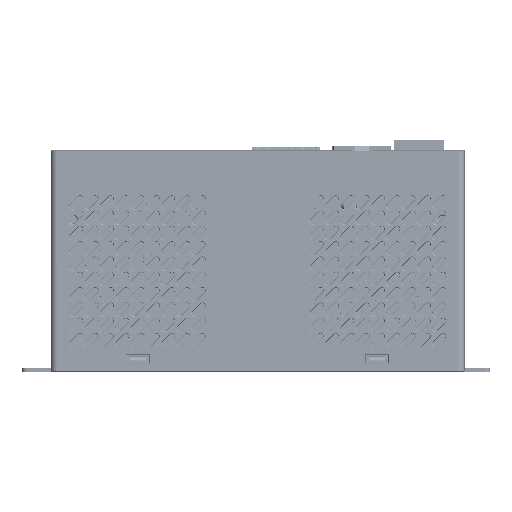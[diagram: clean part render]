
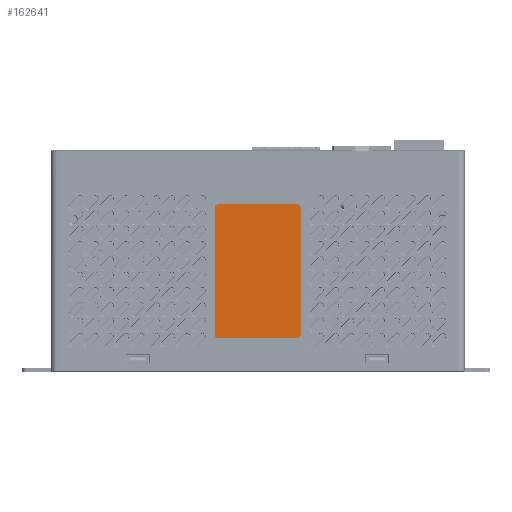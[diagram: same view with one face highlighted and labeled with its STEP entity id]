
A CAD part, left-side view. The second image highlights one B-rep face of the part: STEP entity #162641.
In plain terms, the highlighted planar face has unit normal (-1, 0, 0).
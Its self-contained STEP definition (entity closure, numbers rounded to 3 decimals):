
#2305 = CARTESIAN_POINT ( 'NONE',  ( -12.2, 56.5, 51.752 ) ) ;
#4958 = AXIS2_PLACEMENT_3D ( 'NONE', #66807, #45333, #190722 ) ;
#5462 = EDGE_CURVE ( 'NONE', #255972, #159931, #216417, .T. ) ;
#6751 = DIRECTION ( 'NONE',  ( 0., -1., 0. ) ) ;
#17173 = CARTESIAN_POINT ( 'NONE',  ( -12.2, 83.5, 11.752 ) ) ;
#19005 = VECTOR ( 'NONE', #6751, 1000. ) ;
#22038 = VERTEX_POINT ( 'NONE', #86061 ) ;
#22743 = ORIENTED_EDGE ( 'NONE', *, *, #5462, .T. ) ;
#23179 = EDGE_CURVE ( 'NONE', #188369, #22038, #244056, .T. ) ;
#25522 = ORIENTED_EDGE ( 'NONE', *, *, #204163, .T. ) ;
#27908 = CARTESIAN_POINT ( 'NONE',  ( -12.2, 82.5, 10.752 ) ) ;
#28674 = VECTOR ( 'NONE', #196399, 1000. ) ;
#30577 = CARTESIAN_POINT ( 'NONE',  ( -12.2, 56.5, 11.752 ) ) ;
#39298 = CARTESIAN_POINT ( 'NONE',  ( -12.2, 82.5, 52.752 ) ) ;
#44249 = DIRECTION ( 'NONE',  ( -1., 0., 0. ) ) ;
#45333 = DIRECTION ( 'NONE',  ( -1., 0., 0. ) ) ;
#50073 = DIRECTION ( 'NONE',  ( -1., 0., 0. ) ) ;
#50266 = ORIENTED_EDGE ( 'NONE', *, *, #191709, .T. ) ;
#52313 = LINE ( 'NONE', #134469, #28674 ) ;
#66807 = CARTESIAN_POINT ( 'NONE',  ( -12.2, 57.5, 51.752 ) ) ;
#75085 = VERTEX_POINT ( 'NONE', #110320 ) ;
#86061 = CARTESIAN_POINT ( 'NONE',  ( -12.2, 82.5, 52.752 ) ) ;
#102134 = ORIENTED_EDGE ( 'NONE', *, *, #167408, .T. ) ;
#105624 = ORIENTED_EDGE ( 'NONE', *, *, #201963, .T. ) ;
#110019 = ORIENTED_EDGE ( 'NONE', *, *, #23179, .T. ) ;
#110320 = CARTESIAN_POINT ( 'NONE',  ( -12.2, 57.5, 10.752 ) ) ;
#112733 = DIRECTION ( 'NONE',  ( 0., 0., 1. ) ) ;
#115902 = VECTOR ( 'NONE', #112733, 1000. ) ;
#119010 = AXIS2_PLACEMENT_3D ( 'NONE', #134243, #197503, #177310 ) ;
#119899 = EDGE_CURVE ( 'NONE', #227723, #75085, #214120, .T. ) ;
#125822 = CIRCLE ( 'NONE', #250603, 1. ) ;
#132231 = DIRECTION ( 'NONE',  ( 0., 0., 1. ) ) ;
#134243 = CARTESIAN_POINT ( 'NONE',  ( -12.2, 57.5, 11.752 ) ) ;
#134469 = CARTESIAN_POINT ( 'NONE',  ( -12.2, 83.5, 11.752 ) ) ;
#147157 = DIRECTION ( 'NONE',  ( -1., 0., 0. ) ) ;
#147913 = CARTESIAN_POINT ( 'NONE',  ( -12.2, 82.5, 51.752 ) ) ;
#148210 = CARTESIAN_POINT ( 'NONE',  ( -12.2, 82.5, 10.752 ) ) ;
#153668 = ORIENTED_EDGE ( 'NONE', *, *, #161997, .T. ) ;
#159931 = VERTEX_POINT ( 'NONE', #2305 ) ;
#161997 = EDGE_CURVE ( 'NONE', #201773, #227723, #213353, .T. ) ;
#162641 = ADVANCED_FACE ( 'NONE', ( #258168 ), #193486, .T. ) ;
#166809 = DIRECTION ( 'NONE',  ( 0., 1., 0. ) ) ;
#167408 = EDGE_CURVE ( 'NONE', #75085, #255972, #210064, .T. ) ;
#168685 = DIRECTION ( 'NONE',  ( 0., 0., 1. ) ) ;
#177310 = DIRECTION ( 'NONE',  ( 0., 0., 1. ) ) ;
#182355 = VECTOR ( 'NONE', #166809, 1000. ) ;
#188369 = VERTEX_POINT ( 'NONE', #241809 ) ;
#190722 = DIRECTION ( 'NONE',  ( 0., 0., 1. ) ) ;
#191709 = EDGE_CURVE ( 'NONE', #210426, #201773, #52313, .T. ) ;
#193486 = PLANE ( 'NONE',  #119010 ) ;
#196383 = CARTESIAN_POINT ( 'NONE',  ( -12.2, 56.5, 11.752 ) ) ;
#196399 = DIRECTION ( 'NONE',  ( 0., 0., -1. ) ) ;
#197503 = DIRECTION ( 'NONE',  ( -1., 0., 0. ) ) ;
#199987 = EDGE_LOOP ( 'NONE', ( #25522, #50266, #153668, #224047, #102134, #22743, #105624, #110019 ) ) ;
#201773 = VERTEX_POINT ( 'NONE', #17173 ) ;
#201963 = EDGE_CURVE ( 'NONE', #159931, #188369, #224363, .T. ) ;
#204163 = EDGE_CURVE ( 'NONE', #22038, #210426, #125822, .T. ) ;
#210064 = CIRCLE ( 'NONE', #261867, 1. ) ;
#210410 = CARTESIAN_POINT ( 'NONE',  ( -12.2, 57.5, 11.752 ) ) ;
#210426 = VERTEX_POINT ( 'NONE', #231487 ) ;
#211671 = CARTESIAN_POINT ( 'NONE',  ( -12.2, 82.5, 11.752 ) ) ;
#213353 = CIRCLE ( 'NONE', #265004, 1. ) ;
#214120 = LINE ( 'NONE', #148210, #19005 ) ;
#216417 = LINE ( 'NONE', #30577, #115902 ) ;
#224047 = ORIENTED_EDGE ( 'NONE', *, *, #119899, .T. ) ;
#224363 = CIRCLE ( 'NONE', #4958, 1. ) ;
#227723 = VERTEX_POINT ( 'NONE', #27908 ) ;
#230082 = DIRECTION ( 'NONE',  ( 0., 0., 1. ) ) ;
#231487 = CARTESIAN_POINT ( 'NONE',  ( -12.2, 83.5, 51.752 ) ) ;
#241809 = CARTESIAN_POINT ( 'NONE',  ( -12.2, 57.5, 52.752 ) ) ;
#244056 = LINE ( 'NONE', #39298, #182355 ) ;
#250603 = AXIS2_PLACEMENT_3D ( 'NONE', #147913, #44249, #230082 ) ;
#255972 = VERTEX_POINT ( 'NONE', #196383 ) ;
#258168 = FACE_OUTER_BOUND ( 'NONE', #199987, .T. ) ;
#261867 = AXIS2_PLACEMENT_3D ( 'NONE', #210410, #147157, #168685 ) ;
#265004 = AXIS2_PLACEMENT_3D ( 'NONE', #211671, #50073, #132231 ) ;
